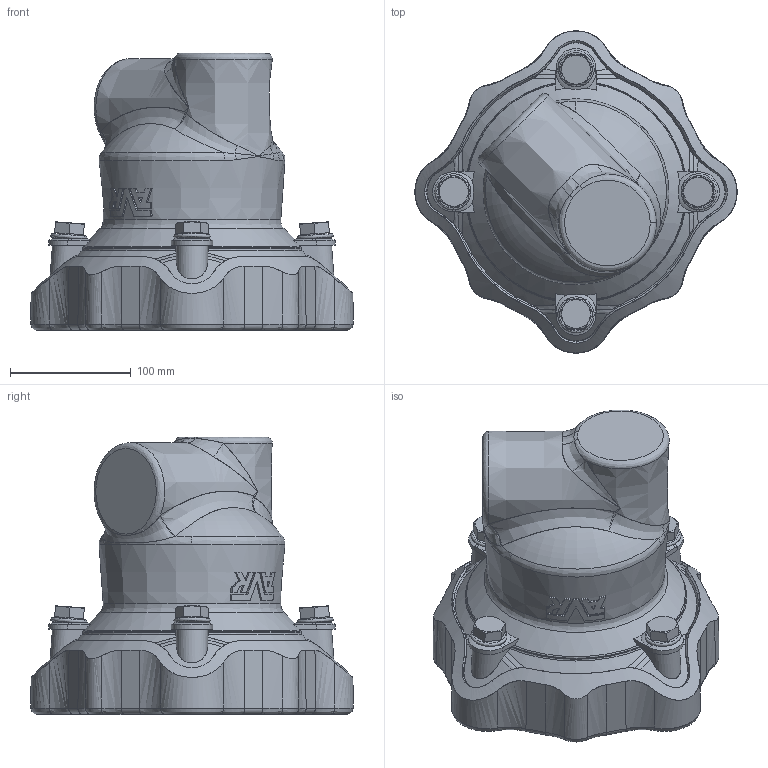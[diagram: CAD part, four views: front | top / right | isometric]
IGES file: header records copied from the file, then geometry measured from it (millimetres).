
Start section: SolidWorks IGES file using analytic representation for surfaces
Global section: file name: \\avksan2\techshare\PBM outline export from Enovia\O_634_00_DN100_104-133mm_AA0_igs.igs; native system: SolidWorks 2012; preprocessor: SolidWorks 2012; author: pbm; date: 160510.124846; units: millimetre
Bounding box: 267.53 x 267.53 x 230.51 mm (x, y, z)
Surface area: 264265.7 mm2 (no closed solid volume)
Topology: 0 solids, 0 shells, 483 faces, 3301 edges, 3274 vertices
Faces by surface type: bspline 337, revolution 146
